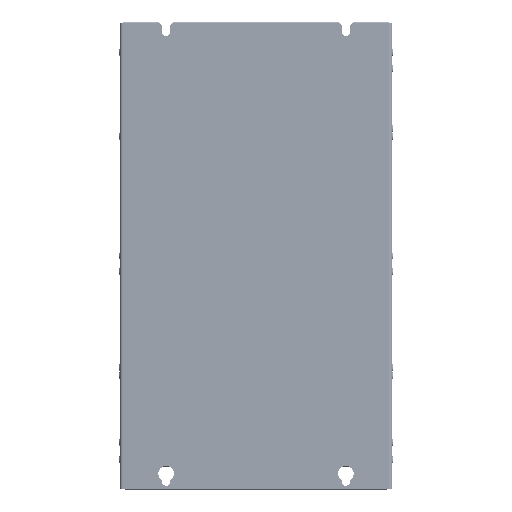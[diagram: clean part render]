
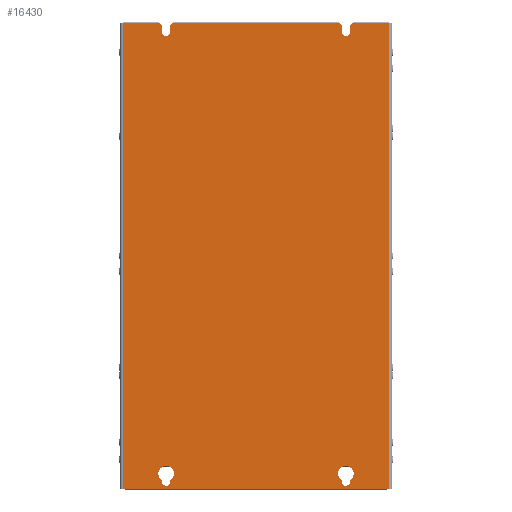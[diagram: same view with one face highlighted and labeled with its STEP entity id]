
A CAD part, left-side view. The second image highlights one B-rep face of the part: STEP entity #16430.
In plain terms, the highlighted planar face has unit normal (-1, 0, 0).
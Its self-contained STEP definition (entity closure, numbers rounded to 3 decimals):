
#22=CARTESIAN_POINT('',(-90.,75.,-320.08));
#23=DIRECTION('',(1.,0.,0.));
#24=DIRECTION('',(0.,-1.,0.));
#25=AXIS2_PLACEMENT_3D('',#22,#23,#24);
#31=DIRECTION('',(0.,0.,1.));
#32=VECTOR('',#31,1.023);
#33=CARTESIAN_POINT('',(-90.,71.5,-320.08));
#34=LINE('',#33,#32);
#38=CARTESIAN_POINT('',(-90.,75.,-313.58));
#39=DIRECTION('',(1.,0.,0.));
#40=DIRECTION('',(0.,0.538,-0.843));
#41=AXIS2_PLACEMENT_3D('',#38,#39,#40);
#46=DIRECTION('',(0.,0.,-1.));
#47=VECTOR('',#46,1.023);
#48=CARTESIAN_POINT('',(-90.,78.5,-319.057));
#49=LINE('',#48,#47);
#53=DIRECTION('',(0.,0.,1.));
#54=VECTOR('',#53,1.023);
#55=CARTESIAN_POINT('',(-90.,-78.5,-320.08));
#56=LINE('',#55,#54);
#60=CARTESIAN_POINT('',(-90.,-75.,-313.58));
#61=DIRECTION('',(1.,0.,0.));
#62=DIRECTION('',(0.,0.538,-0.843));
#63=AXIS2_PLACEMENT_3D('',#60,#61,#62);
#68=DIRECTION('',(0.,0.,-1.));
#69=VECTOR('',#68,1.023);
#70=CARTESIAN_POINT('',(-90.,-71.5,-319.057));
#71=LINE('',#70,#69);
#75=CARTESIAN_POINT('',(-90.,-75.,-320.08));
#76=DIRECTION('',(1.,0.,0.));
#77=DIRECTION('',(0.,-1.,0.));
#78=AXIS2_PLACEMENT_3D('',#75,#76,#77);
#83=DIRECTION('',(0.,0.707,-0.707));
#84=VECTOR('',#83,2.546);
#85=CARTESIAN_POINT('',(-90.,-80.3,62.12));
#86=LINE('',#85,#84);
#90=DIRECTION('',(0.,1.,0.));
#91=VECTOR('',#90,2.);
#92=CARTESIAN_POINT('',(-90.,-111.1,-325.88));
#93=LINE('',#92,#91);
#97=DIRECTION('',(0.,1.,0.));
#98=VECTOR('',#97,2.);
#99=CARTESIAN_POINT('',(-90.,109.1,-325.88));
#100=LINE('',#99,#98);
#104=DIRECTION('',(0.,-0.707,-0.707));
#105=VECTOR('',#104,2.546);
#106=CARTESIAN_POINT('',(-90.,80.3,62.12));
#107=LINE('',#106,#105);
#111=DIRECTION('',(0.,0.,-1.));
#112=VECTOR('',#111,5.4);
#113=CARTESIAN_POINT('',(-90.,78.5,60.32));
#114=LINE('',#113,#112);
#118=CARTESIAN_POINT('',(-90.,75.,54.92));
#119=DIRECTION('',(1.,0.,0.));
#120=DIRECTION('',(0.,-1.,0.));
#121=AXIS2_PLACEMENT_3D('',#118,#119,#120);
#126=DIRECTION('',(0.,0.,-1.));
#127=VECTOR('',#126,5.4);
#128=CARTESIAN_POINT('',(-90.,71.5,60.32));
#129=LINE('',#128,#127);
#133=DIRECTION('',(0.,0.707,-0.707));
#134=VECTOR('',#133,2.546);
#135=CARTESIAN_POINT('',(-90.,69.7,62.12));
#136=LINE('',#135,#134);
#140=DIRECTION('',(0.,-0.707,-0.707));
#141=VECTOR('',#140,2.546);
#142=CARTESIAN_POINT('',(-90.,-69.7,62.12));
#143=LINE('',#142,#141);
#147=DIRECTION('',(0.,0.,-1.));
#148=VECTOR('',#147,5.4);
#149=CARTESIAN_POINT('',(-90.,-71.5,60.32));
#150=LINE('',#149,#148);
#154=CARTESIAN_POINT('',(-90.,-75.,54.92));
#155=DIRECTION('',(1.,0.,0.));
#156=DIRECTION('',(0.,-1.,0.));
#157=AXIS2_PLACEMENT_3D('',#154,#155,#156);
#162=DIRECTION('',(0.,0.,-1.));
#163=VECTOR('',#162,5.4);
#164=CARTESIAN_POINT('',(-90.,-78.5,60.32));
#165=LINE('',#164,#163);
#432=DIRECTION('',(0.,1.,0.));
#433=VECTOR('',#432,30.8);
#434=CARTESIAN_POINT('',(-90.,-111.1,62.12));
#435=LINE('',#434,#433);
#450=DIRECTION('',(0.,1.,0.));
#451=VECTOR('',#450,139.4);
#452=CARTESIAN_POINT('',(-90.,-69.7,62.12));
#453=LINE('',#452,#451);
#479=DIRECTION('',(0.,1.,0.));
#480=VECTOR('',#479,30.8);
#481=CARTESIAN_POINT('',(-90.,80.3,62.12));
#482=LINE('',#481,#480);
#772=DIRECTION('',(0.,0.,-1.));
#773=VECTOR('',#772,388.);
#774=CARTESIAN_POINT('',(-90.,-111.1,62.12));
#775=LINE('',#774,#773);
#6424=DIRECTION('',(0.,0.,1.));
#6425=VECTOR('',#6424,388.);
#6426=CARTESIAN_POINT('',(-90.,111.1,-325.88));
#6427=LINE('',#6426,#6425);
#12750=DIRECTION('',(0.,-1.,0.));
#12751=VECTOR('',#12750,218.2);
#12752=CARTESIAN_POINT('',(-90.,109.1,-325.88));
#12753=LINE('',#12752,#12751);
#13907=CARTESIAN_POINT('',(-90.,-111.1,-325.88));
#13908=VERTEX_POINT('',#13907);
#13909=CARTESIAN_POINT('',(-90.,-111.1,62.12));
#13910=VERTEX_POINT('',#13909);
#13923=CARTESIAN_POINT('',(-90.,111.1,62.12));
#13924=VERTEX_POINT('',#13923);
#13925=CARTESIAN_POINT('',(-90.,111.1,-325.88));
#13926=VERTEX_POINT('',#13925);
#13967=CARTESIAN_POINT('',(-90.,109.1,-325.88));
#13968=CARTESIAN_POINT('',(-90.,-109.1,-325.88));
#13969=VERTEX_POINT('',#13967);
#13970=VERTEX_POINT('',#13968);
#13971=CARTESIAN_POINT('',(-90.,71.5,-320.08));
#13972=CARTESIAN_POINT('',(-90.,78.5,-320.08));
#13973=VERTEX_POINT('',#13971);
#13974=VERTEX_POINT('',#13972);
#13975=CARTESIAN_POINT('',(-90.,71.5,-319.057));
#13976=VERTEX_POINT('',#13975);
#13977=CARTESIAN_POINT('',(-90.,78.5,-319.057));
#13978=VERTEX_POINT('',#13977);
#13979=CARTESIAN_POINT('',(-90.,-78.5,-320.08));
#13980=CARTESIAN_POINT('',(-90.,-78.5,-319.057));
#13981=VERTEX_POINT('',#13979);
#13982=VERTEX_POINT('',#13980);
#13983=CARTESIAN_POINT('',(-90.,-71.5,-319.057));
#13984=VERTEX_POINT('',#13983);
#13985=CARTESIAN_POINT('',(-90.,-71.5,-320.08));
#13986=VERTEX_POINT('',#13985);
#13987=CARTESIAN_POINT('',(-90.,71.5,54.92));
#13988=CARTESIAN_POINT('',(-90.,78.5,54.92));
#13989=VERTEX_POINT('',#13987);
#13990=VERTEX_POINT('',#13988);
#13991=CARTESIAN_POINT('',(-90.,-78.5,54.92));
#13992=CARTESIAN_POINT('',(-90.,-71.5,54.92));
#13993=VERTEX_POINT('',#13991);
#13994=VERTEX_POINT('',#13992);
#16311=CARTESIAN_POINT('',(-90.,-80.3,62.12));
#16312=CARTESIAN_POINT('',(-90.,-78.5,60.32));
#16313=VERTEX_POINT('',#16311);
#16314=VERTEX_POINT('',#16312);
#16315=CARTESIAN_POINT('',(-90.,-69.7,62.12));
#16316=CARTESIAN_POINT('',(-90.,-71.5,60.32));
#16317=VERTEX_POINT('',#16315);
#16318=VERTEX_POINT('',#16316);
#16319=CARTESIAN_POINT('',(-90.,69.7,62.12));
#16320=CARTESIAN_POINT('',(-90.,71.5,60.32));
#16321=VERTEX_POINT('',#16319);
#16322=VERTEX_POINT('',#16320);
#16323=CARTESIAN_POINT('',(-90.,80.3,62.12));
#16324=CARTESIAN_POINT('',(-90.,78.5,60.32));
#16325=VERTEX_POINT('',#16323);
#16326=VERTEX_POINT('',#16324);
#16367=CARTESIAN_POINT('',(-90.,0.,0.));
#16368=DIRECTION('',(1.,0.,0.));
#16369=DIRECTION('',(0.,1.,0.));
#16370=AXIS2_PLACEMENT_3D('',#16367,#16368,#16369);
#16371=PLANE('',#16370);
#16373=ORIENTED_EDGE('',*,*,#16372,.F.);
#16375=ORIENTED_EDGE('',*,*,#16374,.F.);
#16377=ORIENTED_EDGE('',*,*,#16376,.T.);
#16379=ORIENTED_EDGE('',*,*,#16378,.T.);
#16381=ORIENTED_EDGE('',*,*,#16380,.F.);
#16383=ORIENTED_EDGE('',*,*,#16382,.T.);
#16385=ORIENTED_EDGE('',*,*,#16384,.T.);
#16387=ORIENTED_EDGE('',*,*,#16386,.F.);
#16389=ORIENTED_EDGE('',*,*,#16388,.T.);
#16391=ORIENTED_EDGE('',*,*,#16390,.T.);
#16393=ORIENTED_EDGE('',*,*,#16392,.F.);
#16395=ORIENTED_EDGE('',*,*,#16394,.F.);
#16397=ORIENTED_EDGE('',*,*,#16396,.F.);
#16399=ORIENTED_EDGE('',*,*,#16398,.F.);
#16401=ORIENTED_EDGE('',*,*,#16400,.T.);
#16403=ORIENTED_EDGE('',*,*,#16402,.T.);
#16405=ORIENTED_EDGE('',*,*,#16404,.F.);
#16407=ORIENTED_EDGE('',*,*,#16406,.F.);
#16408=EDGE_LOOP('',(#16373,#16375,#16377,#16379,#16381,#16383,#16385,#16387,
#16389,#16391,#16393,#16395,#16397,#16399,#16401,#16403,#16405,#16407));
#16409=FACE_OUTER_BOUND('',#16408,.F.);
#16411=ORIENTED_EDGE('',*,*,#16410,.T.);
#16413=ORIENTED_EDGE('',*,*,#16412,.F.);
#16415=ORIENTED_EDGE('',*,*,#16414,.T.);
#16417=ORIENTED_EDGE('',*,*,#16416,.F.);
#16418=EDGE_LOOP('',(#16411,#16413,#16415,#16417));
#16419=FACE_BOUND('',#16418,.F.);
#16421=ORIENTED_EDGE('',*,*,#16420,.F.);
#16423=ORIENTED_EDGE('',*,*,#16422,.T.);
#16425=ORIENTED_EDGE('',*,*,#16424,.F.);
#16427=ORIENTED_EDGE('',*,*,#16426,.T.);
#16428=EDGE_LOOP('',(#16421,#16423,#16425,#16427));
#16429=FACE_BOUND('',#16428,.F.);
#16430=ADVANCED_FACE('',(#16409,#16419,#16429),#16371,.F.);
#26=CIRCLE('',#25,3.5);
#42=CIRCLE('',#41,6.5);
#64=CIRCLE('',#63,6.5);
#79=CIRCLE('',#78,3.5);
#122=CIRCLE('',#121,3.5);
#158=CIRCLE('',#157,3.5);
#16372=EDGE_CURVE('',#16313,#16314,#86,.T.);
#16374=EDGE_CURVE('',#13910,#16313,#435,.T.);
#16376=EDGE_CURVE('',#13910,#13908,#775,.T.);
#16378=EDGE_CURVE('',#13908,#13970,#93,.T.);
#16380=EDGE_CURVE('',#13969,#13970,#12753,.T.);
#16382=EDGE_CURVE('',#13969,#13926,#100,.T.);
#16384=EDGE_CURVE('',#13926,#13924,#6427,.T.);
#16386=EDGE_CURVE('',#16325,#13924,#482,.T.);
#16388=EDGE_CURVE('',#16325,#16326,#107,.T.);
#16390=EDGE_CURVE('',#16326,#13990,#114,.T.);
#16392=EDGE_CURVE('',#13989,#13990,#122,.T.);
#16394=EDGE_CURVE('',#16322,#13989,#129,.T.);
#16396=EDGE_CURVE('',#16321,#16322,#136,.T.);
#16398=EDGE_CURVE('',#16317,#16321,#453,.T.);
#16400=EDGE_CURVE('',#16317,#16318,#143,.T.);
#16402=EDGE_CURVE('',#16318,#13994,#150,.T.);
#16404=EDGE_CURVE('',#13993,#13994,#158,.T.);
#16406=EDGE_CURVE('',#16314,#13993,#165,.T.);
#16410=EDGE_CURVE('',#13981,#13982,#56,.T.);
#16412=EDGE_CURVE('',#13984,#13982,#64,.T.);
#16414=EDGE_CURVE('',#13984,#13986,#71,.T.);
#16416=EDGE_CURVE('',#13981,#13986,#79,.T.);
#16420=EDGE_CURVE('',#13973,#13974,#26,.T.);
#16422=EDGE_CURVE('',#13973,#13976,#34,.T.);
#16424=EDGE_CURVE('',#13978,#13976,#42,.T.);
#16426=EDGE_CURVE('',#13978,#13974,#49,.T.);
